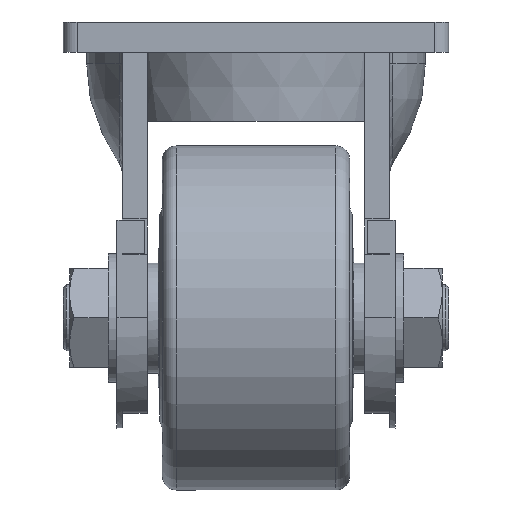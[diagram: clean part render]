
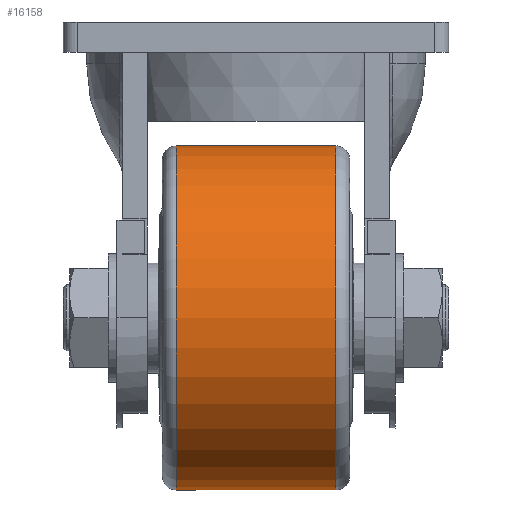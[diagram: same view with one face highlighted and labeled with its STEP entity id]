
A CAD part, front view. The second image highlights one B-rep face of the part: STEP entity #16158.
In plain terms, the highlighted cylindrical face has radius 62.5 mm (diameter 125 mm), a full revolution.
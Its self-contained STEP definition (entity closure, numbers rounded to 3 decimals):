
#16124=CARTESIAN_POINT('',(62.055,249.243,-26.6));
#16125=VERTEX_POINT('',#16124);
#16126=CARTESIAN_POINT('',(62.055,249.243,-89.1));
#16127=DIRECTION('',(1.0,0.0,0.0));
#16128=DIRECTION('',(0.0,1.0,0.0));
#16129=AXIS2_PLACEMENT_3D('',#16126,#16127,#16128);
#16130=CIRCLE('',#16129,62.5);
#16131=EDGE_CURVE('',#16125,#16125,#16130,.T.);
#16139=CARTESIAN_POINT('',(91.055,249.243,-89.1));
#16140=DIRECTION('',(1.0,0.0,0.0));
#16141=DIRECTION('',(0.0,1.0,0.0));
#16142=AXIS2_PLACEMENT_3D('',#16139,#16140,#16141);
#16143=CYLINDRICAL_SURFACE('',#16142,62.5);
#16144=CARTESIAN_POINT('',(120.055,249.243,-26.6));
#16145=VERTEX_POINT('',#16144);
#16146=CARTESIAN_POINT('',(120.055,249.243,-89.1));
#16147=DIRECTION('',(1.0,0.0,0.0));
#16148=DIRECTION('',(0.0,1.0,0.0));
#16149=AXIS2_PLACEMENT_3D('',#16146,#16147,#16148);
#16150=CIRCLE('',#16149,62.5);
#16151=EDGE_CURVE('',#16145,#16145,#16150,.T.);
#16152=ORIENTED_EDGE('',*,*,#16151,.F.);
#16153=EDGE_LOOP('',(#16152));
#16154=FACE_OUTER_BOUND('',#16153,.T.);
#16155=ORIENTED_EDGE('',*,*,#16131,.T.);
#16156=EDGE_LOOP('',(#16155));
#16157=FACE_BOUND('',#16156,.T.);
#16158=ADVANCED_FACE('',(#16154,#16157),#16143,.T.);
